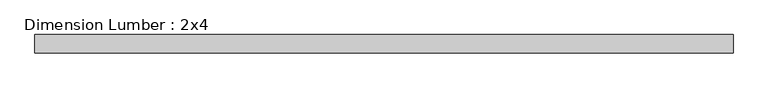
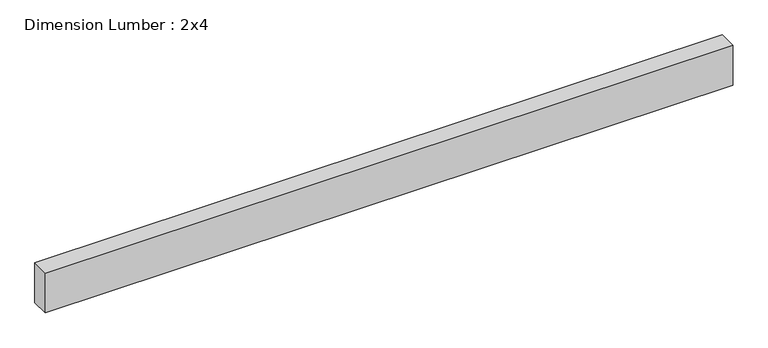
"""IFC4 building model written with IfcOpenShell, lengths in millimetres: beam geometry, Dimension Lumber : 2x4."""

from ifc_helpers import new_model, si_unit, frame, origin, place, context, project, spatial, polyline, outline, extrude, source, transform, mapped, element, save


def dimension_lumber_2x4_1f531fe0(model_context):
    return source(origin(), model_context, "Body", "SweptSolid", [
        extrude(outline(polyline([(714.7485294, 19.05), (714.7485294, -19.05), (-733.7985294, -19.05), (-733.7985294, 19.05), (714.7485294, 19.05)])), frame((0.0, 0.0, -44.45), z_axis=(0.0, 0.0, 1.0), x_axis=(1.0, 0.0, 0.0)), (0.0, 0.0, 1.0), 88.9),
    ])


if __name__ == "__main__":
    model = new_model("IFC4")
    model_context = context("Model", 3, world=origin())
    ifc_project = project(units=[si_unit("LENGTHUNIT", "METRE", prefix="MILLI")], contexts=[model_context])
    site = spatial("IfcSite", under=ifc_project)
    building = spatial("IfcBuilding", under=site)
    placement = place(None, origin())
    dimension_lumber_2x4_shape = dimension_lumber_2x4_1f531fe0(model_context)
    element("IfcBeam", 1, ObjectType="Dimension Lumber : 2x4", at=placement, inside=building, context=model_context, shape_type="MappedRepresentation", body=[
        mapped(dimension_lumber_2x4_shape, transform((0.0, 0.0, 0.0), x_axis=(1.0, 0.0, 0.0), y_axis=(0.0, 1.0, 0.0), z_axis=(0.0, 0.0, 1.0))),
    ])
    save(model, "model.ifc")
